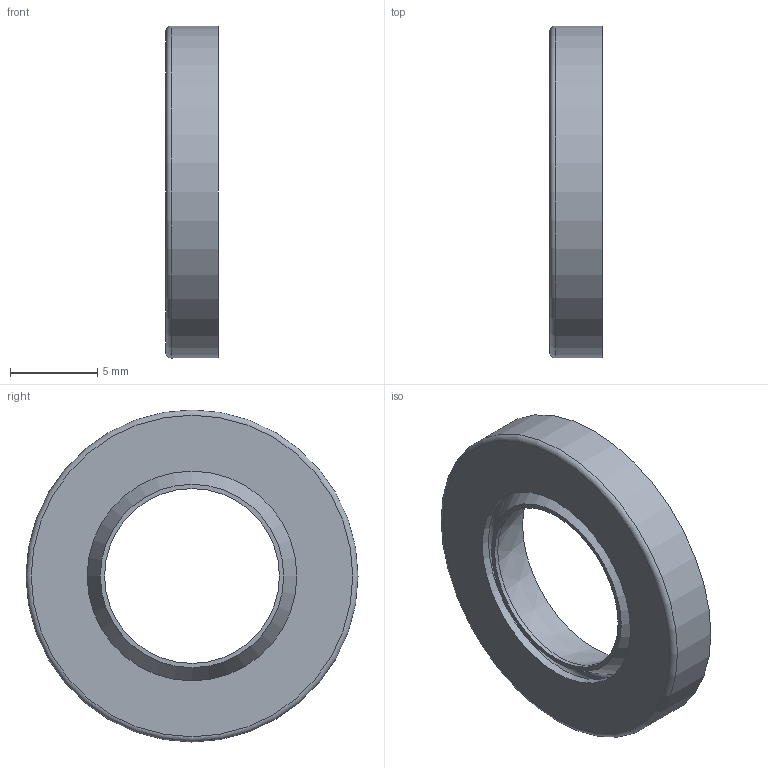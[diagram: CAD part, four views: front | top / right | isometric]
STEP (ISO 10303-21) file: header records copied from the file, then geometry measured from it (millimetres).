
FILE_DESCRIPTION(('STEP AP203'),'1');
FILE_NAME('//192.168.1.1/share/s-4 技術開発/s-4-4_CAD/s-4-4-3_見直し済み/007 修正済み/シール/SBX-10.step','2022-02-16T05:42:46',(' '),(' '),'Spatial InterOp 3D',' ',' ');
FILE_SCHEMA(('CONFIG_CONTROL_DESIGN'));
Length unit declared in the file: millimetre
Products named in the file (1): 1
Bounding box: 3 x 19 x 19 mm (x, y, z)
Volume: 503 mm3; surface area: 864.8 mm2
Topology: 1 solids, 1 shells, 14 faces, 23 edges, 14 vertices
Faces by surface type: plane 5, cylinder 4, torus 3, cone 2
Full cylindrical faces by diameter (mm): 10 x1, 12 x1, 14.5 x1, 19 x1
Entity records: 332 total; most frequent: DIRECTION 58, CARTESIAN_POINT 43, AXIS2_PLACEMENT_3D 29, EDGE_LOOP 28, ORIENTED_EDGE 28, FACE_OUTER_BOUND 21, ADVANCED_FACE 14, EDGE_CURVE 14
